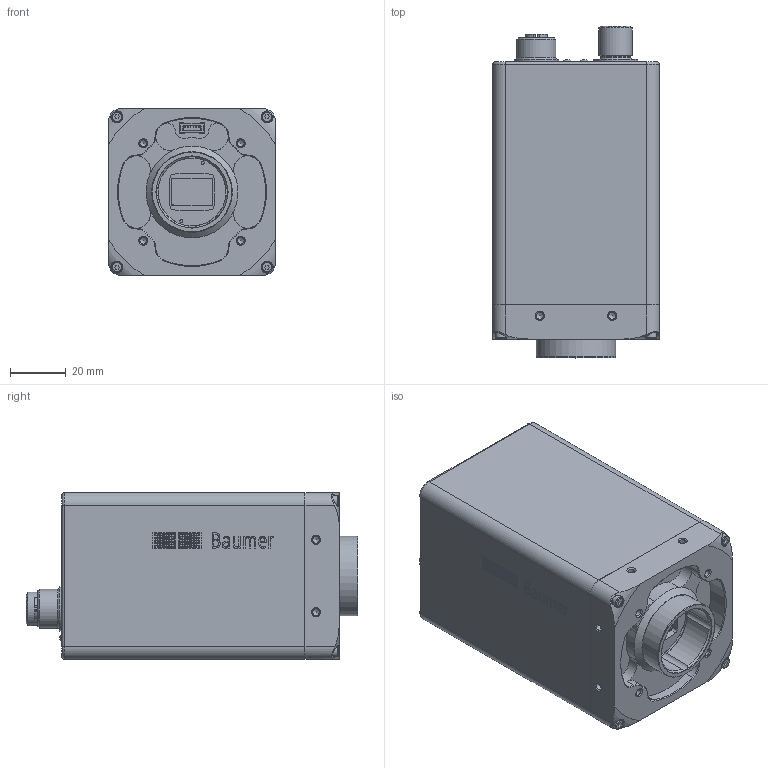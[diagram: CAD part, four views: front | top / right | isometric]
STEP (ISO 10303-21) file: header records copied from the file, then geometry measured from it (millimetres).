
FILE_DESCRIPTION( ( '1170033' ), '1' );
FILE_NAME( '11700337_VLXT-71C.I.stp', 'Unknown', ( '20201123' ), ( 'Unknown' ), 'PSStep 19.0.9', 'Unknown', ' ' );
FILE_SCHEMA( ( 'AUTOMOTIVE_DESIGN { 1 0 10303 214 1 1 1 1 }' ) );
Length unit declared in the file: millimetre
Products named in the file (1): 11192507
Bounding box: 60 x 119.33 x 60 mm (x, y, z)
Volume: 347271.9 mm3; surface area: 39394 mm2
Topology: 1 solids, 6 shells, 1483 faces, 3276 edges, 2143 vertices
Faces by surface type: plane 652, cylinder 615, torus 70, cone 67, extrusion 56, sphere 16, bspline 7
Full cylindrical faces by diameter (mm): 0.306 x20, 0.385 x20, 0.464 x20, 0.542 x20, 0.621 x20, 0.63 x12, 0.699 x20, 0.7 x8, 0.778 x20, 0.856 x20, 1.1 x2, 1.24 x8, 2 x4, 2.4 x4, 2.459 x28, 3.4 x2, 3.8 x4, 4.975 x2, 8 x2, 8.25 x1, 8.3 x1, 8.4 x1, 9 x1, 9.3 x2, 9.4 x2, 10.75 x1, 12 x3, 14 x1, 16 x2, 25.7 x1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
Entity records: 55796 total; most frequent: CARTESIAN_POINT 12150, DIRECTION 6885, ORIENTED_EDGE 5636, EDGE_CURVE 2818, AXIS2_PLACEMENT_3D 2795, EDGE_LOOP 2181, VERTEX_POINT 2064, FACE_OUTER_BOUND 1780
